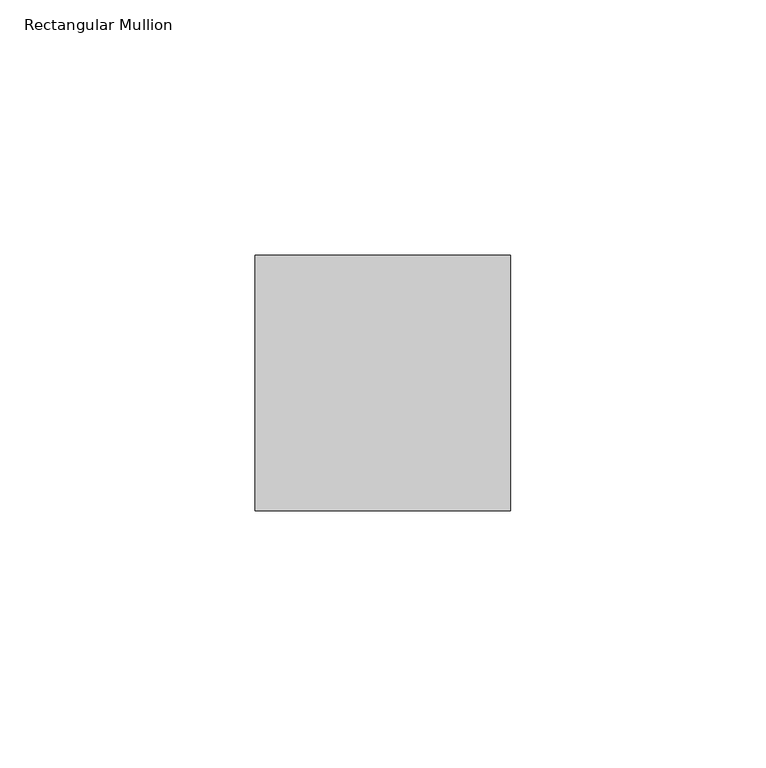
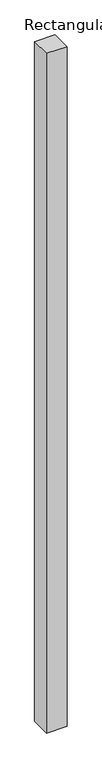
"""IFC4 building model written with IfcOpenShell, lengths in millimetres: member geometry, Rectangular Mullion : Mullion_Curtain Wall_Generic Showcase_50x50mm."""

from ifc_helpers import new_model, si_unit, frame, origin, place, context, project, spatial, polyline, outline, extrude, source, transform, mapped, element, save


def rectangular_mullion_c50f3822(model_context):
    return source(origin(), model_context, "Body", "SweptSolid", [
        extrude(outline(polyline([(0.0, 0.0), (0.0, -50.0), (-50.0, -50.0), (-50.0, 0.0), (0.0, 0.0)])), frame((0.0, 0.0, -1751.9795478), z_axis=(0.0, 0.0, 1.0), x_axis=(1.0, 0.0, 0.0)), (0.0, 0.0, 1.0), 1751.9795478),
    ])


if __name__ == "__main__":
    model = new_model("IFC4")
    model_context = context("Model", 3, world=origin())
    ifc_project = project(units=[si_unit("LENGTHUNIT", "METRE", prefix="MILLI")], contexts=[model_context])
    site = spatial("IfcSite", under=ifc_project)
    building = spatial("IfcBuilding", under=site)
    placement = place(None, origin())
    rectangular_mullion_shape = rectangular_mullion_c50f3822(model_context)
    element("IfcMember", 1, ObjectType="Rectangular Mullion : Mullion_Curtain Wall_Generic Showcase_50x50mm", at=placement, inside=building, context=model_context, shape_type="MappedRepresentation", body=[
        mapped(rectangular_mullion_shape, transform((0.0, 0.0, 0.0), x_axis=(1.0, 0.0, 0.0), y_axis=(0.0, 1.0, 0.0), z_axis=(0.0, 0.0, 1.0))),
    ])
    save(model, "model.ifc")
